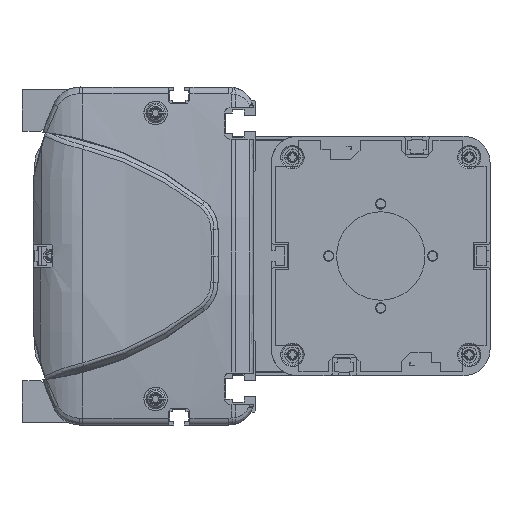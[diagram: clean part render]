
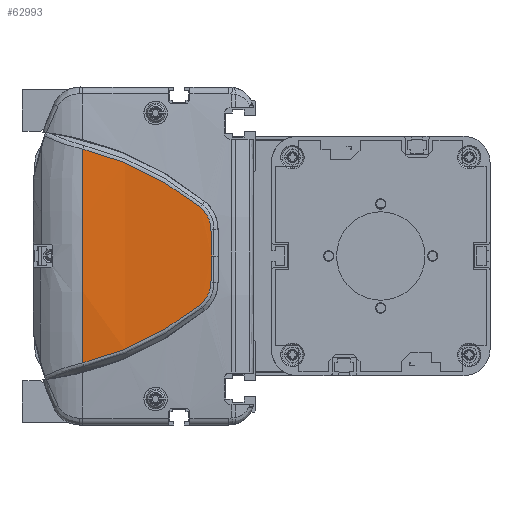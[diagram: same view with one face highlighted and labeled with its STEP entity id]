
A CAD part, left-side view. The second image highlights one B-rep face of the part: STEP entity #62993.
In plain terms, the highlighted cylindrical face has radius 500 mm (diameter 1000 mm), a partial arc.
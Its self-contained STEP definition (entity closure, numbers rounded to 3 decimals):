
#59229=CARTESIAN_POINT('',(-514.,66.962,0.));
#59230=DIRECTION('',(0.,-1.,0.));
#59231=DIRECTION('',(-0.997,0.,0.082));
#59232=AXIS2_PLACEMENT_3D('',#59229,#59230,#59231);
#60112=CARTESIAN_POINT('',(-1013.648,21.913,
-18.759));
#60113=CARTESIAN_POINT('',(-1013.449,28.504,
-24.058));
#60114=CARTESIAN_POINT('',(-1012.934,42.795,
-33.27));
#60115=CARTESIAN_POINT('',(-1012.471,58.756,
-39.127));
#60116=CARTESIAN_POINT('',(-1012.306,66.962,
-41.121));
#60118=CARTESIAN_POINT('',(-1012.306,66.962,
41.121));
#60119=CARTESIAN_POINT('',(-1012.471,58.756,
39.127));
#60120=CARTESIAN_POINT('',(-1012.934,42.795,
33.27));
#60121=CARTESIAN_POINT('',(-1013.449,28.504,
24.058));
#60122=CARTESIAN_POINT('',(-1013.648,21.913,
18.759));
#60124=CARTESIAN_POINT('',(-1013.648,21.913,
18.759));
#60125=CARTESIAN_POINT('',(-1013.686,20.635,
17.736));
#60126=CARTESIAN_POINT('',(-1013.779,18.536,
15.107));
#60127=CARTESIAN_POINT('',(-1013.863,17.752,
11.827));
#60128=CARTESIAN_POINT('',(-1013.896,17.724,
10.178));
#60130=CARTESIAN_POINT('',(-1013.896,17.724,
10.178));
#60131=CARTESIAN_POINT('',(-1013.92,17.707,
9.025));
#60132=CARTESIAN_POINT('',(-1013.959,17.667,
6.733));
#60133=CARTESIAN_POINT('',(-1013.993,17.58,
3.338));
#60134=CARTESIAN_POINT('',(-1014.,17.498,
1.108));
#60135=CARTESIAN_POINT('',(-1014.,17.449,
0.));
#60137=CARTESIAN_POINT('',(-1014.,17.449,
0.));
#60138=CARTESIAN_POINT('',(-1014.,17.498,
-1.108));
#60139=CARTESIAN_POINT('',(-1013.993,17.58,
-3.339));
#60140=CARTESIAN_POINT('',(-1013.959,17.667,
-6.732));
#60141=CARTESIAN_POINT('',(-1013.92,17.707,
-9.027));
#60142=CARTESIAN_POINT('',(-1013.896,17.724,
-10.18));
#60144=CARTESIAN_POINT('',(-1013.896,17.724,
-10.18));
#60145=CARTESIAN_POINT('',(-1013.863,17.752,
-11.828));
#60146=CARTESIAN_POINT('',(-1013.779,18.537,
-15.109));
#60147=CARTESIAN_POINT('',(-1013.686,20.635,
-17.736));
#60148=CARTESIAN_POINT('',(-1013.648,21.913,
-18.759));
#60815=VERTEX_POINT('',#60112);
#60816=VERTEX_POINT('',#60116);
#60817=CARTESIAN_POINT('',(-1012.306,66.962,
41.121));
#60818=VERTEX_POINT('',#60817);
#60819=VERTEX_POINT('',#60122);
#60820=VERTEX_POINT('',#60128);
#60821=VERTEX_POINT('',#60135);
#60822=VERTEX_POINT('',#60142);
#62974=CARTESIAN_POINT('',(-514.,8.606,0.));
#62975=DIRECTION('',(0.,1.,0.));
#62976=DIRECTION('',(1.,0.,0.));
#62977=AXIS2_PLACEMENT_3D('',#62974,#62975,#62976);
#62978=CYLINDRICAL_SURFACE('',#62977,500.);
#62980=ORIENTED_EDGE('',*,*,#62979,.T.);
#62981=ORIENTED_EDGE('',*,*,#61617,.F.);
#62983=ORIENTED_EDGE('',*,*,#62982,.T.);
#62985=ORIENTED_EDGE('',*,*,#62984,.T.);
#62987=ORIENTED_EDGE('',*,*,#62986,.T.);
#62989=ORIENTED_EDGE('',*,*,#62988,.T.);
#62990=ORIENTED_EDGE('',*,*,#62964,.T.);
#62991=EDGE_LOOP('',(#62980,#62981,#62983,#62985,#62987,#62989,#62990));
#62992=FACE_OUTER_BOUND('',#62991,.F.);
#62993=ADVANCED_FACE('',(#62992),#62978,.T.);
#59233=CIRCLE('',#59232,500.);
#60117=B_SPLINE_CURVE_WITH_KNOTS('',3,(#60112,#60113,#60114,#60115,#60116),
.UNSPECIFIED.,.F.,.F.,(4,1,4),(0.,0.5,1.),.UNSPECIFIED.);
#60123=B_SPLINE_CURVE_WITH_KNOTS('',3,(#60118,#60119,#60120,#60121,#60122),
.UNSPECIFIED.,.F.,.F.,(4,1,4),(0.,0.5,1.),.UNSPECIFIED.);
#60129=B_SPLINE_CURVE_WITH_KNOTS('',3,(#60124,#60125,#60126,#60127,#60128),
.UNSPECIFIED.,.F.,.F.,(4,1,4),(0.,0.5,1.),.UNSPECIFIED.);
#60136=B_SPLINE_CURVE_WITH_KNOTS('',3,(#60130,#60131,#60132,#60133,#60134,
#60135),.UNSPECIFIED.,.F.,.F.,(4,1,1,4),(0.,0.333,
0.667,1.),.UNSPECIFIED.);
#60143=B_SPLINE_CURVE_WITH_KNOTS('',3,(#60137,#60138,#60139,#60140,#60141,
#60142),.UNSPECIFIED.,.F.,.F.,(4,1,1,4),(0.,0.333,
0.667,1.),.UNSPECIFIED.);
#60149=B_SPLINE_CURVE_WITH_KNOTS('',3,(#60144,#60145,#60146,#60147,#60148),
.UNSPECIFIED.,.F.,.F.,(4,1,4),(0.,0.5,1.),.UNSPECIFIED.);
#61617=EDGE_CURVE('',#60818,#60816,#59233,.T.);
#62964=EDGE_CURVE('',#60822,#60815,#60149,.T.);
#62979=EDGE_CURVE('',#60815,#60816,#60117,.T.);
#62982=EDGE_CURVE('',#60818,#60819,#60123,.T.);
#62984=EDGE_CURVE('',#60819,#60820,#60129,.T.);
#62986=EDGE_CURVE('',#60820,#60821,#60136,.T.);
#62988=EDGE_CURVE('',#60821,#60822,#60143,.T.);
